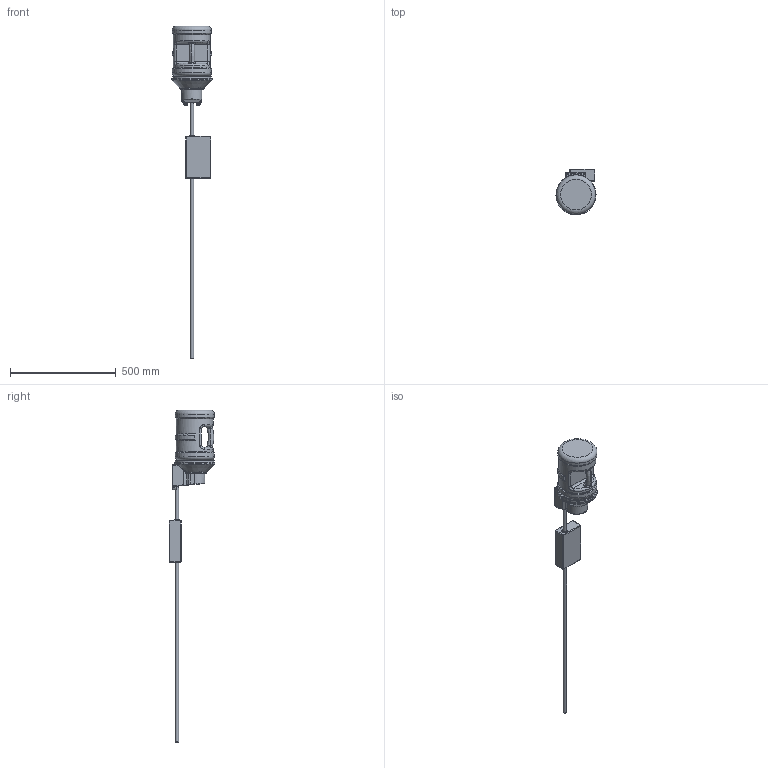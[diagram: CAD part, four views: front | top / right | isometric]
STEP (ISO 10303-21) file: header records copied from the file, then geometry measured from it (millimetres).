
FILE_DESCRIPTION(/* description */ (''),/* implementation_level */ '2;1');
FILE_NAME(/* name */ 'GreaseShot Assembly V2.step',/* time_stamp */ '2026-05-06T11:35:37+01:00',/* author */ (''),/* organization */ (''),/* preprocessor_version */ 'ST-DEVELOPER v20.1',/* originating_system */ 'Autodesk Translation Framework v15.8.0.0',/* authorisation */ '');
FILE_SCHEMA (('AUTOMOTIVE_DESIGN { 1 0 10303 214 3 1 1 }'));
Products named in the file (5): GreaseShot Assembly; ReservoirBracket-PA12-DEV-DL-11.6.25; Box&Tube Mock Up; SeatHolder-PETG-DEV-11.6.25; GreaseShot Bottle Mock Up
Assembly tree (4 placements, depth 2):
  GreaseShot Assembly
    ReservoirBracket-PA12-DEV-DL-11.6.25
    Box&Tube Mock Up
    SeatHolder-PETG-DEV-11.6.25
    GreaseShot Bottle Mock Up
Bounding box: 189.88 x 217.08 x 1570.98 mm (x, y, z)
Volume: 2622883 mm3; surface area: 762164.4 mm2
Topology: 4 solids, 4 shells, 2242 faces, 5519 edges, 3305 vertices
Faces by surface type: bspline 1120, cylinder 779, plane 221, torus 84, cone 26, sphere 12
Full cylindrical faces by diameter (mm): 6.8 x1, 7 x4, 9.8 x1, 10 x3, 11 x3, 13 x4, 14 x1, 16 x2, 19.25 x1, 21.5 x1, 26.25 x1, 27 x2, 27.5 x1, 28.5 x1, 34.5 x1, 44.25 x1, 47.5 x1, 51 x1, 51.25 x1, 52 x1, 54.5 x1, 58 x1, 59 x1, 60.65 x1, 80 x1, 168 x1, 175 x1, 177.742 x1, 178 x2, 185 x2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
Entity records: 91882 total; most frequent: CARTESIAN_POINT 41503, ORIENTED_EDGE 10996, DIRECTION 10661, EDGE_CURVE 5498, AXIS2_PLACEMENT_3D 4617, VERTEX_POINT 3305, CIRCLE 3097, EDGE_LOOP 2307
